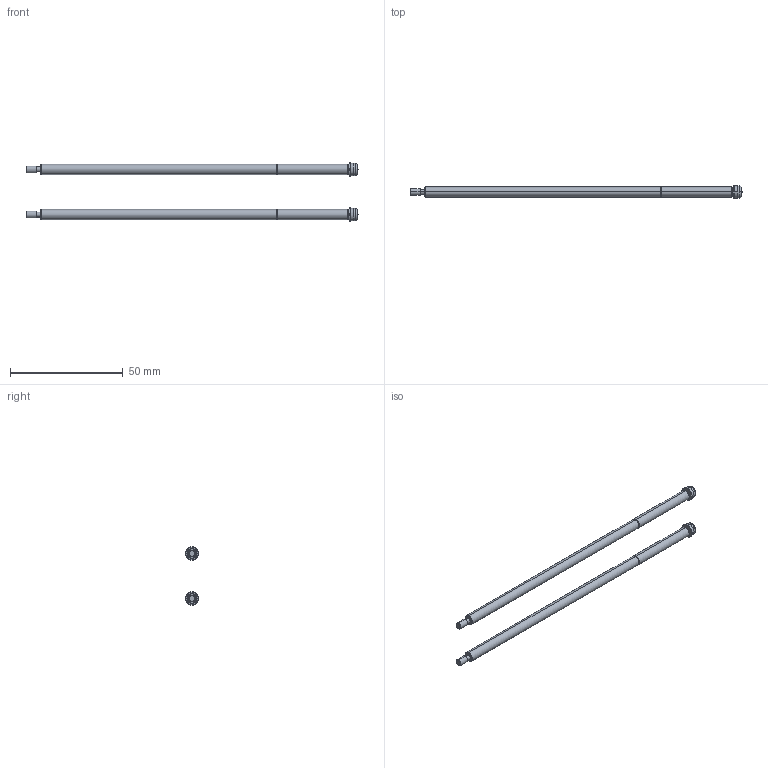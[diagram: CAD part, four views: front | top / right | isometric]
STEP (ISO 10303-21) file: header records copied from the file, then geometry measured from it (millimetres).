
FILE_DESCRIPTION( (''), '2;1');
FILE_NAME ('YS8Z-6.stp','2022-12-01T14:58:47',(''),(''),'spGate 12.6.6','','');
FILE_SCHEMA (('AUTOMOTIVE_DESIGN'));
Length unit declared in the file: millimetre
Products named in the file (4): Assembly; YS8Z-6-prt0; YS8Z-6-prt1; YS8Z-6-prt2
Assembly tree (6 placements, depth 2):
  Assembly
    YS8Z-6-prt0  x2
    YS8Z-6-prt1  x2
    YS8Z-6-prt2  x2
Bounding box: 147.4 x 6 x 26 mm (x, y, z)
Volume: 4442.6 mm3; surface area: 4998.6 mm2
Topology: 6 solids, 6 shells, 144 faces, 288 edges, 166 vertices
Faces by surface type: cylinder 60, bspline 52, plane 28, sphere 4
Entity records: 3272 total; most frequent: CARTESIAN_POINT 630, ORIENTED_EDGE 276, DIRECTION 274, COLOUR_RGB 213, PRESENTATION_STYLE_ASSIGNMENT 213, STYLED_ITEM 213, EDGE_CURVE 138, DRAUGHTING_PRE_DEFINED_CURVE_FONT 138
